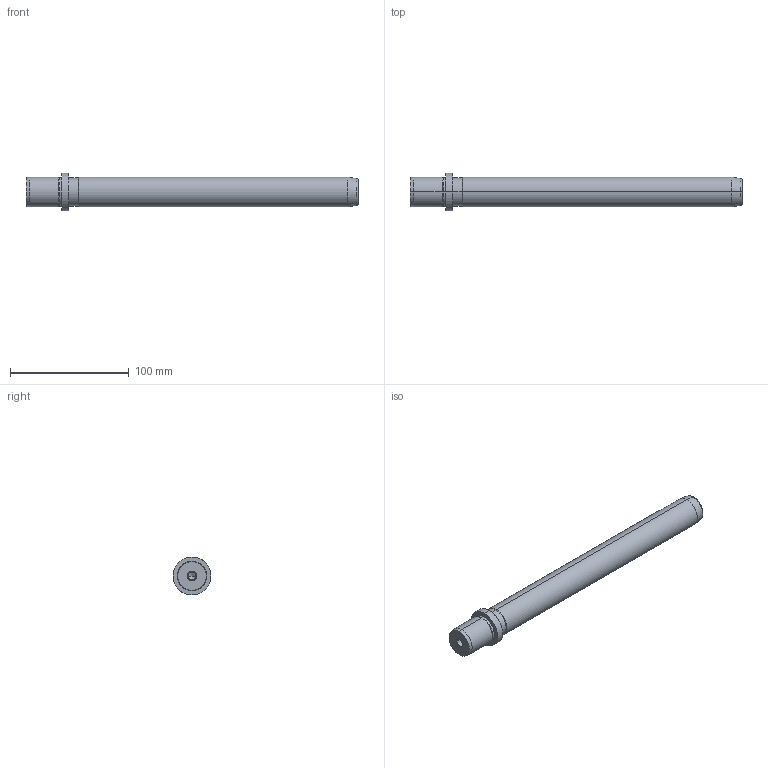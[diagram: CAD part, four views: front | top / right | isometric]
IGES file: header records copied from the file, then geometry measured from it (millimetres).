
Start section: START RECORD GO HERE.
Global section: file name: 718-25x250.igs; native system: DASSAULT SYSTEMES CATIA V5 R20 - www.3ds.com; preprocessor: CATIA Version 5 Release 20 ; author: Utente; organization: NB04-ASUS; date: 20210102.160420; units: millimetre
Bounding box: 280 x 32 x 32 mm (x, y, z)
Surface area: 24627.5 mm2 (no closed solid volume)
Topology: 0 solids, 0 shells, 36 faces, 196 edges, 192 vertices
Faces by surface type: revolution 32, plane 4
